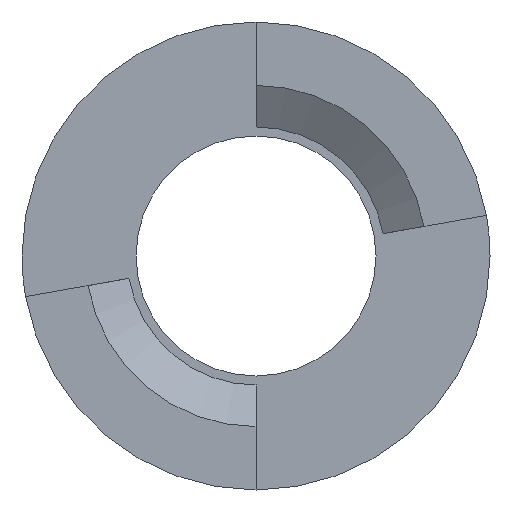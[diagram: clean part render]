
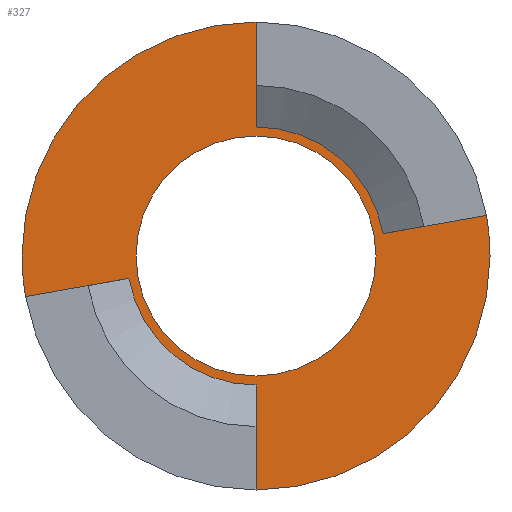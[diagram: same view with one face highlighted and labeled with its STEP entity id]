
A CAD part, left-side view. The second image highlights one B-rep face of the part: STEP entity #327.
In plain terms, the highlighted planar face has unit normal (-1, 0, 0).
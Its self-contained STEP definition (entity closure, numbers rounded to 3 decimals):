
#88=AXIS2_PLACEMENT_3D('Circle Axis2P3D',#86,#87,$) ;
#107=AXIS2_PLACEMENT_3D('Circle Axis2P3D',#105,#106,$) ;
#171=AXIS2_PLACEMENT_3D('Circle Axis2P3D',#169,#170,$) ;
#237=AXIS2_PLACEMENT_3D('Circle Axis2P3D',#235,#236,$) ;
#257=AXIS2_PLACEMENT_3D('Plane Axis2P3D',#254,#255,#256) ;
#275=AXIS2_PLACEMENT_3D('Circle Axis2P3D',#273,#274,$) ;
#282=AXIS2_PLACEMENT_3D('Circle Axis2P3D',#280,#281,$) ;
#301=AXIS2_PLACEMENT_3D('Circle Axis2P3D',#299,#300,$) ;
#308=AXIS2_PLACEMENT_3D('Circle Axis2P3D',#306,#307,$) ;
#83=CARTESIAN_POINT('Vertex',(0.,4.,0.)) ;
#86=CARTESIAN_POINT('Axis2P3D Location',(0.,0.,0.)) ;
#90=CARTESIAN_POINT('Vertex',(0.,-4.,0.)) ;
#105=CARTESIAN_POINT('Axis2P3D Location',(0.,0.,0.)) ;
#166=CARTESIAN_POINT('Vertex',(0.,0.,6.)) ;
#169=CARTESIAN_POINT('Axis2P3D Location',(0.,0.,0.)) ;
#173=CARTESIAN_POINT('Vertex',(0.,-5.909,1.042)) ;
#232=CARTESIAN_POINT('Vertex',(0.,0.,-6.)) ;
#235=CARTESIAN_POINT('Axis2P3D Location',(0.,0.,0.)) ;
#239=CARTESIAN_POINT('Vertex',(0.,5.909,-1.042)) ;
#254=CARTESIAN_POINT('Axis2P3D Location',(0.,0.,0.)) ;
#259=CARTESIAN_POINT('Line Origine',(0.,-6.795,1.198)) ;
#263=CARTESIAN_POINT('Vertex',(0.,-7.682,1.354)) ;
#266=CARTESIAN_POINT('Line Origine',(0.,0.,6.9)) ;
#270=CARTESIAN_POINT('Vertex',(0.,0.,7.8)) ;
#273=CARTESIAN_POINT('Axis2P3D Location',(0.,0.,0.)) ;
#277=CARTESIAN_POINT('Vertex',(0.,7.8,0.)) ;
#280=CARTESIAN_POINT('Axis2P3D Location',(0.,0.,0.)) ;
#284=CARTESIAN_POINT('Vertex',(0.,7.682,-1.354)) ;
#287=CARTESIAN_POINT('Line Origine',(0.,6.795,-1.198)) ;
#292=CARTESIAN_POINT('Line Origine',(0.,0.,-6.9)) ;
#296=CARTESIAN_POINT('Vertex',(0.,0.,-7.8)) ;
#299=CARTESIAN_POINT('Axis2P3D Location',(0.,0.,0.)) ;
#303=CARTESIAN_POINT('Vertex',(0.,-7.8,0.)) ;
#306=CARTESIAN_POINT('Axis2P3D Location',(0.,0.,0.)) ;
#87=DIRECTION('Axis2P3D Direction',(1.,0.,0.)) ;
#106=DIRECTION('Axis2P3D Direction',(1.,0.,0.)) ;
#170=DIRECTION('Axis2P3D Direction',(1.,0.,0.)) ;
#236=DIRECTION('Axis2P3D Direction',(1.,0.,0.)) ;
#255=DIRECTION('Axis2P3D Direction',(1.,0.,0.)) ;
#256=DIRECTION('Axis2P3D XDirection',(0.,1.,0.)) ;
#260=DIRECTION('Vector Direction',(0.,0.985,-0.174)) ;
#267=DIRECTION('Vector Direction',(0.,0.,-1.)) ;
#274=DIRECTION('Axis2P3D Direction',(1.,0.,0.)) ;
#281=DIRECTION('Axis2P3D Direction',(1.,0.,0.)) ;
#288=DIRECTION('Vector Direction',(0.,0.985,-0.174)) ;
#293=DIRECTION('Vector Direction',(0.,0.,-1.)) ;
#300=DIRECTION('Axis2P3D Direction',(1.,0.,0.)) ;
#307=DIRECTION('Axis2P3D Direction',(1.,0.,0.)) ;
#261=VECTOR('Line Direction',#260,1.) ;
#268=VECTOR('Line Direction',#267,1.) ;
#289=VECTOR('Line Direction',#288,1.) ;
#294=VECTOR('Line Direction',#293,1.) ;
#312=ORIENTED_EDGE('',*,*,#265,.F.) ;
#313=ORIENTED_EDGE('',*,*,#175,.F.) ;
#314=ORIENTED_EDGE('',*,*,#272,.T.) ;
#315=ORIENTED_EDGE('',*,*,#279,.F.) ;
#316=ORIENTED_EDGE('',*,*,#286,.F.) ;
#317=ORIENTED_EDGE('',*,*,#291,.F.) ;
#318=ORIENTED_EDGE('',*,*,#241,.F.) ;
#319=ORIENTED_EDGE('',*,*,#298,.T.) ;
#320=ORIENTED_EDGE('',*,*,#305,.F.) ;
#321=ORIENTED_EDGE('',*,*,#310,.F.) ;
#324=ORIENTED_EDGE('',*,*,#109,.T.) ;
#325=ORIENTED_EDGE('',*,*,#92,.T.) ;
#326=FACE_BOUND('',#323,.T.) ;
#327=ADVANCED_FACE('\X2\96F64EF651E04F554F53\X0\',(#322,#326),#258,.F.) ;
#89=CIRCLE('generated circle',#88,4.) ;
#108=CIRCLE('generated circle',#107,4.) ;
#172=CIRCLE('generated circle',#171,6.) ;
#238=CIRCLE('generated circle',#237,6.) ;
#276=CIRCLE('generated circle',#275,7.8) ;
#283=CIRCLE('generated circle',#282,7.8) ;
#302=CIRCLE('generated circle',#301,7.8) ;
#309=CIRCLE('generated circle',#308,7.8) ;
#92=EDGE_CURVE('',#91,#84,#89,.T.) ;
#109=EDGE_CURVE('',#84,#91,#108,.T.) ;
#175=EDGE_CURVE('',#167,#174,#172,.T.) ;
#241=EDGE_CURVE('',#233,#240,#238,.T.) ;
#265=EDGE_CURVE('',#174,#264,#262,.F.) ;
#272=EDGE_CURVE('',#167,#271,#269,.F.) ;
#279=EDGE_CURVE('',#278,#271,#276,.T.) ;
#286=EDGE_CURVE('',#285,#278,#283,.T.) ;
#291=EDGE_CURVE('',#240,#285,#290,.T.) ;
#298=EDGE_CURVE('',#233,#297,#295,.T.) ;
#305=EDGE_CURVE('',#304,#297,#302,.T.) ;
#310=EDGE_CURVE('',#264,#304,#309,.T.) ;
#311=EDGE_LOOP('',(#312,#313,#314,#315,#316,#317,#318,#319,#320,#321)) ;
#323=EDGE_LOOP('',(#324,#325)) ;
#322=FACE_OUTER_BOUND('',#311,.T.) ;
#262=LINE('Line',#259,#261) ;
#269=LINE('Line',#266,#268) ;
#290=LINE('Line',#287,#289) ;
#295=LINE('Line',#292,#294) ;
#258=PLANE('Plane',#257) ;
#84=VERTEX_POINT('',#83) ;
#91=VERTEX_POINT('',#90) ;
#167=VERTEX_POINT('',#166) ;
#174=VERTEX_POINT('',#173) ;
#233=VERTEX_POINT('',#232) ;
#240=VERTEX_POINT('',#239) ;
#264=VERTEX_POINT('',#263) ;
#271=VERTEX_POINT('',#270) ;
#278=VERTEX_POINT('',#277) ;
#285=VERTEX_POINT('',#284) ;
#297=VERTEX_POINT('',#296) ;
#304=VERTEX_POINT('',#303) ;
